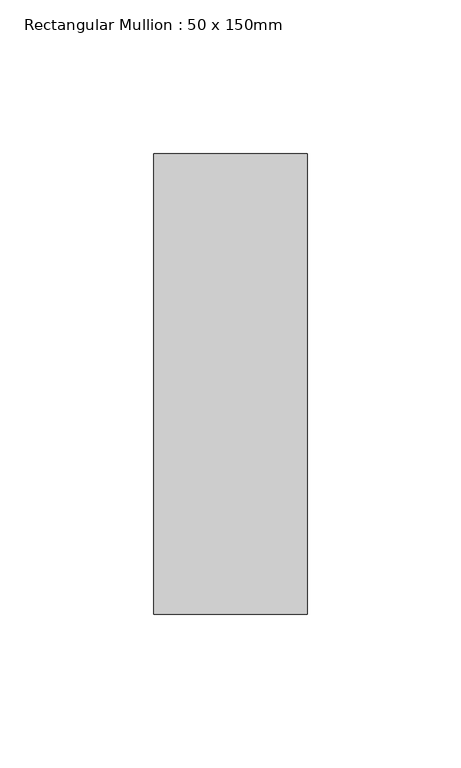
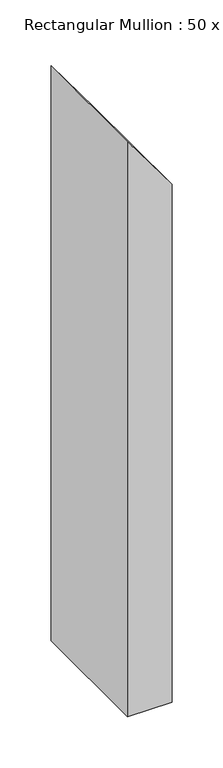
"""IFC4 building model written with IfcOpenShell, lengths in millimetres: member geometry, Rectangular Mullion : 50 x 150mm."""

from ifc_helpers import new_model, si_unit, frame, origin, place, context, project, spatial, polyline, outline, extrude, source, transform, mapped, element, save


def rectangular_mullion_50_x_150mm_2f289d27(model_context):
    return source(origin(), model_context, "Body", "SweptSolid", [
        extrude(outline(polyline([(-118.7510973, 25.0), (-50.4852075, -25.0), (-737.2407055, -25.0), (-737.2407055, 25.0), (-118.7510973, 25.0)])), frame((0.0, -75.0, 0.0), z_axis=(0.0, 1.0, 0.0), x_axis=(0.0, 0.0, 1.0)), (0.0, 0.0, 1.0), 150.0),
    ])


if __name__ == "__main__":
    model = new_model("IFC4")
    model_context = context("Model", 3, world=origin())
    ifc_project = project(units=[si_unit("LENGTHUNIT", "METRE", prefix="MILLI")], contexts=[model_context])
    site = spatial("IfcSite", under=ifc_project)
    building = spatial("IfcBuilding", under=site)
    placement = place(None, origin())
    rectangular_mullion_50_x_150mm_shape = rectangular_mullion_50_x_150mm_2f289d27(model_context)
    element("IfcMember", 1, ObjectType="Rectangular Mullion : 50 x 150mm", at=placement, inside=building, context=model_context, shape_type="MappedRepresentation", body=[
        mapped(rectangular_mullion_50_x_150mm_shape, transform((0.0, 0.0, 0.0), x_axis=(1.0, 0.0, 0.0), y_axis=(0.0, 1.0, 0.0), z_axis=(0.0, 0.0, 1.0))),
    ])
    save(model, "model.ifc")
